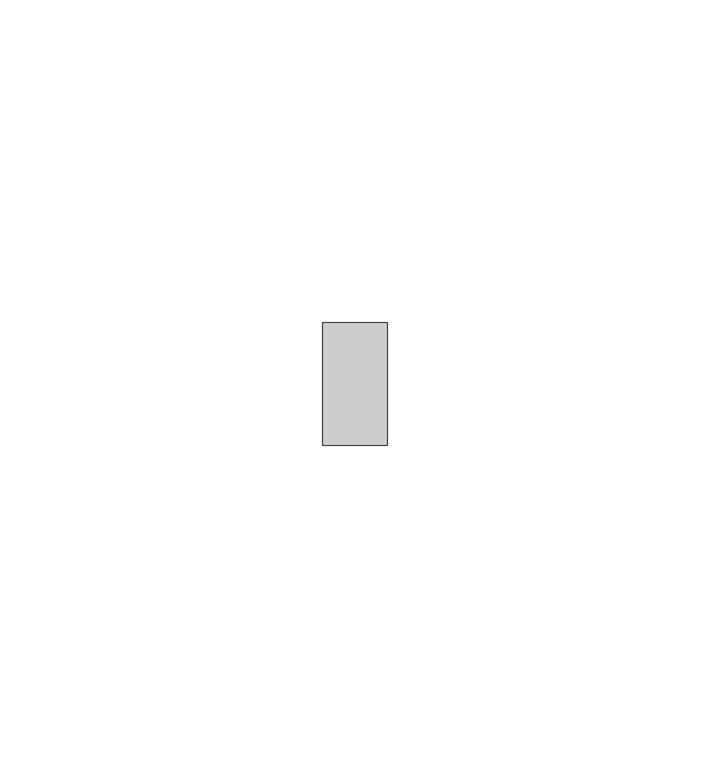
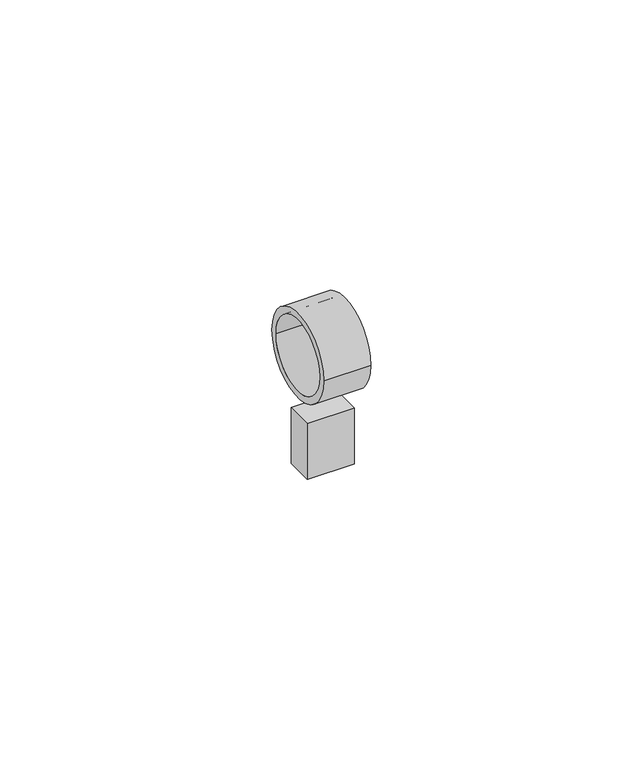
"""IFC4 building model written with IfcOpenShell, lengths in millimetres: cable carrier fitting geometry, Хомутный держатель со стяжкой CFF1 16-32 мм IEK : Хомутный держатель со стяжкой CFF1 16-32 мм IEK."""

from ifc_helpers import new_model, si_unit, point, frame, origin, origin_2d, place, context, project, spatial, polyline, circle_curve, trimmed, segment, composite_curve, outline, extrude, source, transform, mapped, element, save


def cable_carrier_fitting_d08d1a64(model_context):
    return source(origin(), model_context, "Body", "SweptSolid", [
        extrude(outline(polyline([(5.0, 2.4195258), (5.0, -3.5240345), (-5.0, -3.5240345), (-5.0, 2.4195258), (5.0, 2.4195258)])), frame((0.0, 0.0, -25.78125), z_axis=(0.0, 0.0, 1.0), x_axis=(1.0, 0.0, 0.0)), (0.0, 0.0, 1.0), 12.6113362),
        extrude(outline(composite_curve([segment(trimmed(circle_curve(origin_2d(), 9.5), [point((-9.5, 0.0))], [point((9.5, 0.0))], False, "CARTESIAN"), True, "CONTINUOUS"), segment(trimmed(circle_curve(origin_2d(), 9.5), [point((9.5, 0.0))], [point((-9.5, 0.0))], False, "CARTESIAN"), True, "CONTINUOUS")], self_intersect=False), holes=[composite_curve([segment(trimmed(circle_curve(origin_2d(), 8.0), [point((-8.0, 0.0))], [point((8.0, 0.0))], True, "CARTESIAN"), True, "CONTINUOUS"), segment(trimmed(circle_curve(origin_2d(), 8.0), [point((8.0, 0.0))], [point((-8.0, 0.0))], True, "CARTESIAN"), True, "CONTINUOUS")], self_intersect=False)]), frame((-5.0, 0.0, 0.0), z_axis=(1.0, 0.0, 0.0), x_axis=(0.0, 1.0, 0.0)), (0.0, 0.0, 1.0), 10.0),
    ])


if __name__ == "__main__":
    model = new_model("IFC4")
    model_context = context("Model", 3, world=origin())
    ifc_project = project(units=[si_unit("LENGTHUNIT", "METRE", prefix="MILLI")], contexts=[model_context])
    site = spatial("IfcSite", under=ifc_project)
    building = spatial("IfcBuilding", under=site)
    placement = place(None, origin())
    cable_carrier_fitting_shape = cable_carrier_fitting_d08d1a64(model_context)
    element("IfcCableCarrierFitting", 1, ObjectType="Хомутный держатель со стяжкой CFF1 16-32 мм IEK : Хомутный держатель со стяжкой CFF1 16-32 мм IEK", at=placement, inside=building, context=model_context, shape_type="MappedRepresentation", body=[
        mapped(cable_carrier_fitting_shape, transform((0.0, 0.0, 0.0), x_axis=(1.0, 0.0, 0.0), y_axis=(0.0, 1.0, 0.0), z_axis=(0.0, 0.0, 1.0))),
    ])
    save(model, "model.ifc")
